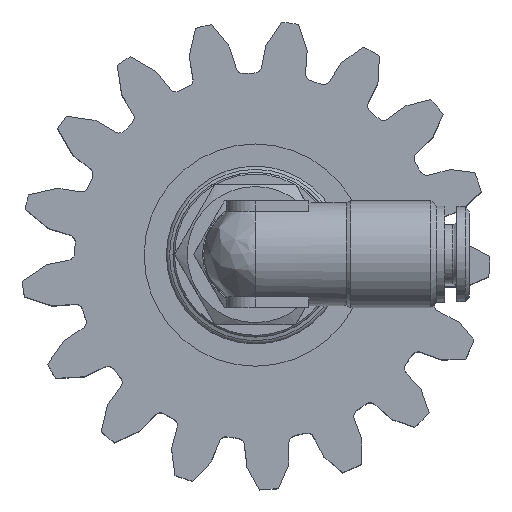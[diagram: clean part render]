
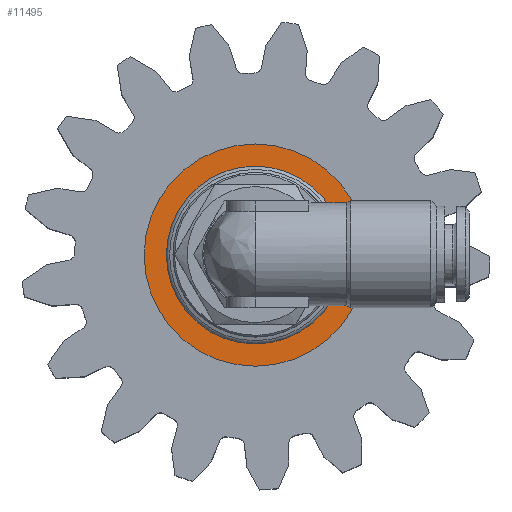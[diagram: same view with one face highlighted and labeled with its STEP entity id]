
A CAD part, top view. The second image highlights one B-rep face of the part: STEP entity #11495.
In plain terms, the highlighted planar face has unit normal (0, 0, 1) as drawn and (0, 1, 0) by its records, which use the part's own axes.
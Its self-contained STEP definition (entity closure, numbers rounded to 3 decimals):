
#2388 = CARTESIAN_POINT ( 'NONE',  ( 0., 0.6, 0. ) ) ;
#3045 = DIRECTION ( 'NONE',  ( 0., 1., 0. ) ) ;
#4937 = EDGE_CURVE ( 'NONE', #9255, #9255, #26423, .T. ) ;
#6164 = DIRECTION ( 'NONE',  ( 0., 0., -1. ) ) ;
#9255 = VERTEX_POINT ( 'NONE', #13641 ) ;
#9701 = VERTEX_POINT ( 'NONE', #15981 ) ;
#9739 = FACE_BOUND ( 'NONE', #16339, .T. ) ;
#9771 = ORIENTED_EDGE ( 'NONE', *, *, #4937, .T. ) ;
#9871 = PLANE ( 'NONE',  #21248 ) ;
#11495 = ADVANCED_FACE ( 'NONE', ( #9739, #25372 ), #9871, .F. ) ;
#13641 = CARTESIAN_POINT ( 'NONE',  ( 0., 0.6, 13.5 ) ) ;
#13827 = DIRECTION ( 'NONE',  ( 0., 1., 0. ) ) ;
#15237 = CIRCLE ( 'NONE', #24611, 10.8 ) ;
#15981 = CARTESIAN_POINT ( 'NONE',  ( 0., 0.6, 10.8 ) ) ;
#16339 = EDGE_LOOP ( 'NONE', ( #24769 ) ) ;
#16703 = EDGE_CURVE ( 'NONE', #9701, #9701, #15237, .T. ) ;
#17100 = AXIS2_PLACEMENT_3D ( 'NONE', #2388, #13827, #22355 ) ;
#18667 = CARTESIAN_POINT ( 'NONE',  ( 13.5, 0.6, 0. ) ) ;
#20352 = CARTESIAN_POINT ( 'NONE',  ( 0., 0.6, 0. ) ) ;
#21248 = AXIS2_PLACEMENT_3D ( 'NONE', #18667, #27584, #6164 ) ;
#22355 = DIRECTION ( 'NONE',  ( 0., 0., 1. ) ) ;
#24611 = AXIS2_PLACEMENT_3D ( 'NONE', #20352, #3045, #27527 ) ;
#24769 = ORIENTED_EDGE ( 'NONE', *, *, #16703, .F. ) ;
#25371 = EDGE_LOOP ( 'NONE', ( #9771 ) ) ;
#25372 = FACE_OUTER_BOUND ( 'NONE', #25371, .T. ) ;
#26423 = CIRCLE ( 'NONE', #17100, 13.5 ) ;
#27527 = DIRECTION ( 'NONE',  ( 0., 0., 1. ) ) ;
#27584 = DIRECTION ( 'NONE',  ( 0., -1., 0. ) ) ;
